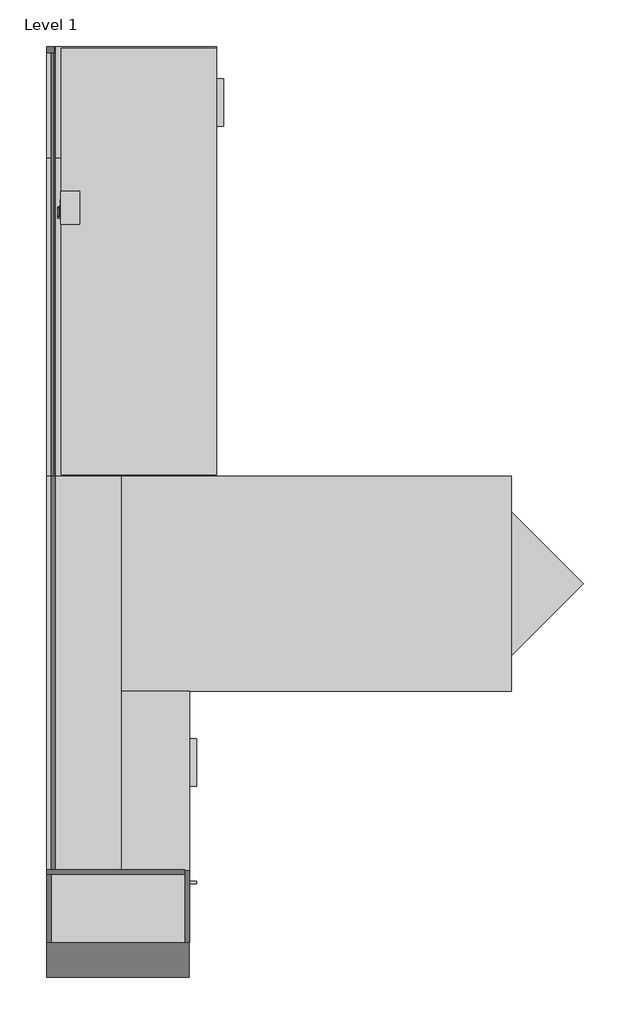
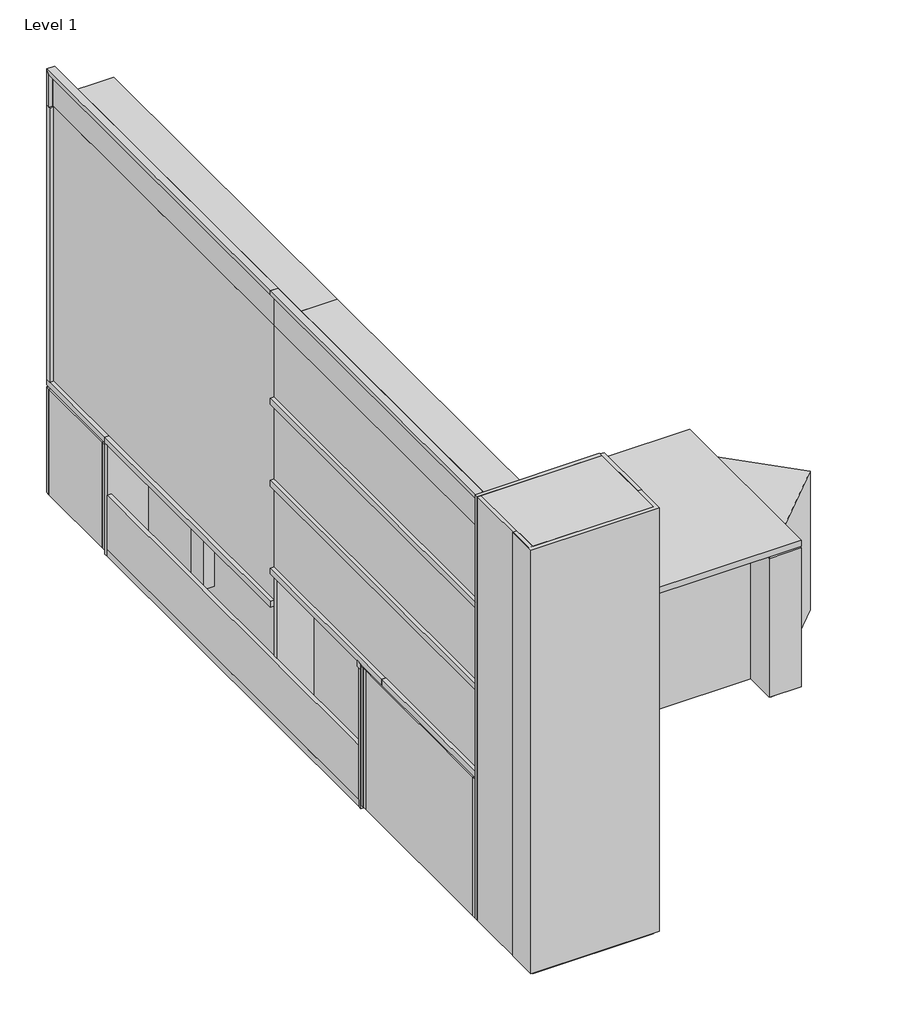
# One storey, incomplete: 15 proxies.
"""IFC4 building model written with IfcOpenShell, lengths in millimetres."""

from ifc_helpers import new_model, si_unit, origin, place, context, project, spatial, transform, mapped, element, save
from components import generic_models_4914e97a, generic_models_c733547e, generic_models_5ed4adca, generic_models_cfd542b2, generic_models_ab5d6a62, generic_models_b7273189, generic_models_309273ef, generic_models_ddd470e9, generic_models_91c993ae, generic_models_95cabb8a, generic_models_45839ae2, generic_models_23b81e3b, generic_models_f6abea88, generic_models_fad06939, generic_models_0a960df9

model = new_model("IFC4")

# Units and contexts
model_context = context("Model", 3, world=origin())
ifc_project = project(units=[si_unit("LENGTHUNIT", "METRE", prefix="MILLI")], contexts=[model_context])

# Site, building, storey
site = spatial("IfcSite", under=ifc_project)
building = spatial("IfcBuilding", under=site)
storey = spatial("IfcBuildingStorey", under=building, Name="Level 1", Elevation=0.0)

# Proxies
placement = place(None, origin())
generic_models_shape = generic_models_4914e97a(model_context)
element("IfcBuildingElementProxy", 1, Name="BASYS^OFFICE 7_WARDROBE-LEFT END", ObjectType="BASYS^OFFICE 7_WARDROBE-LEFT END", at=placement, inside=storey, context=model_context, shape_type="MappedRepresentation", body=[
    mapped(generic_models_shape, transform((0.0, -3962.4, -584.2), x_axis=(0.0, 1.0, 0.0), y_axis=(0.0, 0.0, 1.0), z_axis=(1.0, 0.0, 0.0))),
])
generic_models_2_shape = generic_models_c733547e(model_context)
element("IfcBuildingElementProxy", 2, Name="BASYS^OFFICE 7_LEGAL LAT-WORKSURFACE", ObjectType="BASYS^OFFICE 7_LEGAL LAT-WORKSURFACE", at=placement, inside=storey, context=model_context, shape_type="MappedRepresentation", body=[
    mapped(generic_models_2_shape, transform((609.6, -3505.2, 136.525), x_axis=(0.0, 1.0, 0.0), y_axis=(0.0, 0.0, 1.0), z_axis=(1.0, 0.0, 0.0))),
])
generic_models_3_shape = generic_models_5ed4adca(model_context)
element("IfcBuildingElementProxy", 3, Name="BASYS^OFFICE 7_36x78 DESK-PARTS SOLID", ObjectType="BASYS^OFFICE 7_36x78 DESK-PARTS SOLID", at=placement, inside=storey, context=model_context, shape_type="MappedRepresentation", body=[
    mapped(generic_models_3_shape, transform((0.0, -2743.2, 136.525), x_axis=(1.0, 0.0, 0.0), y_axis=(0.0, 0.0, 1.0), z_axis=(0.0, -1.0, 0.0))),
])
generic_models_4_shape = generic_models_cfd542b2(model_context)
element("IfcBuildingElementProxy", 4, Name="BASYS^OFFICE 7_24 DEEP PED_LEGAL BF PED", ObjectType="BASYS^OFFICE 7_24 DEEP PED_LEGAL BF PED", at=placement, inside=storey, context=model_context, shape_type="MappedRepresentation", body=[
    mapped(generic_models_4_shape, transform((419.1, -69.2307943, -231.6683988), x_axis=(0.0, 1.0, 0.0), y_axis=(0.0, 0.0, 1.0), z_axis=(1.0, 0.0, 0.0))),
])
generic_models_5_shape = generic_models_ab5d6a62(model_context)
element("IfcBuildingElementProxy", 5, Name="BASYS^OFFICE 7_WIRE WALL_PARTS SOLID", ObjectType="BASYS^OFFICE 7_WIRE WALL_PARTS SOLID", at=placement, inside=storey, context=model_context, shape_type="MappedRepresentation", body=[
    mapped(generic_models_5_shape, transform((215.9, -2571.75, -28.575), x_axis=(0.0, 1.0, 0.0), y_axis=(0.0, 0.0, 1.0), z_axis=(1.0, 0.0, 0.0))),
])
generic_models_6_shape = generic_models_b7273189(model_context)
element("IfcBuildingElementProxy", 6, Name="SS LIFT ANGLE_18_LT_OMT_LINAK (NEW)", ObjectType="SS LIFT ANGLE_18_LT_OMT_LINAK (NEW)", at=placement, inside=storey, context=model_context, shape_type="MappedRepresentation", body=[
    mapped(generic_models_6_shape, transform((103.1875, -1601.6, 136.525), x_axis=(1.0, 0.0, 0.0), y_axis=(0.0, 0.0, 1.0), z_axis=(0.0, -1.0, 0.0))),
])
generic_models_7_shape = generic_models_309273ef(model_context)
element("IfcBuildingElementProxy", 7, Name="CLAMP ON PWR WITH DATA", ObjectType="CLAMP ON PWR WITH DATA", at=placement, inside=storey, context=model_context, shape_type="MappedRepresentation", body=[
    mapped(generic_models_7_shape, transform((74.1354302, -790.194, 195.8594), x_axis=(0.0, 1.0, 0.0), y_axis=(0.0, 0.0, 1.0), z_axis=(1.0, 0.0, 0.0))),
])
generic_models_8_shape = generic_models_ddd470e9(model_context)
element("IfcBuildingElementProxy", 8, Name="SS LIFT ANGLE_18_RT_OMT_LINAK (NEW)", ObjectType="SS LIFT ANGLE_18_RT_OMT_LINAK (NEW)", at=placement, inside=storey, context=model_context, shape_type="MappedRepresentation", body=[
    mapped(generic_models_8_shape, transform((103.1875, -493.9, 136.525), x_axis=(1.0, 0.0, 0.0), y_axis=(0.0, 0.0, 1.0), z_axis=(0.0, -1.0, 0.0))),
])
generic_models_9_shape = generic_models_91c993ae(model_context)
element("IfcBuildingElementProxy", 9, Name="BASYS^OFFICE 7_WALL HUNG-LEFT UNIT", ObjectType="BASYS^OFFICE 7_WALL HUNG-LEFT UNIT", at=placement, inside=storey, context=model_context, shape_type="MappedRepresentation", body=[
    mapped(generic_models_9_shape, transform((19.05, -3505.2, 1368.425), x_axis=(0.0, 1.0, 0.0), y_axis=(0.0, 0.0, 1.0), z_axis=(1.0, 0.0, 0.0))),
])
generic_models_10_shape = generic_models_95cabb8a(model_context)
element("IfcBuildingElementProxy", 10, Name="BASYS^OFFICE 7_WALL HUNG-RIGHT UNIT", ObjectType="BASYS^OFFICE 7_WALL HUNG-RIGHT UNIT", at=placement, inside=storey, context=model_context, shape_type="MappedRepresentation", body=[
    mapped(generic_models_10_shape, transform((19.05, -1828.8, 1368.425), x_axis=(0.0, 1.0, 0.0), y_axis=(0.0, 0.0, 1.0), z_axis=(1.0, 0.0, 0.0))),
])
generic_models_11_shape = generic_models_45839ae2(model_context)
element("IfcBuildingElementProxy", 11, Name="BASYS^OFFICE 7_LEGAL BF-WORKSURFACE", ObjectType="BASYS^OFFICE 7_LEGAL BF-WORKSURFACE", at=placement, inside=storey, context=model_context, shape_type="MappedRepresentation", body=[
    mapped(generic_models_11_shape, transform((0.0, -476.25, -28.575), x_axis=(1.0, 0.0, 0.0), y_axis=(0.0, 0.0, 1.0), z_axis=(0.0, -1.0, 0.0))),
])
generic_models_12_shape = generic_models_23b81e3b(model_context)
element("IfcBuildingElementProxy", 12, Name="BASYS^OFFICE 7_WIRE WALL_TROUGH", ObjectType="BASYS^OFFICE 7_WIRE WALL_TROUGH", at=placement, inside=storey, context=model_context, shape_type="MappedRepresentation", body=[
    mapped(generic_models_12_shape, transform((100.08108, -1581.15, 71.50608), x_axis=(0.0, 1.0, 0.0), y_axis=(0.0, 0.0, 1.0), z_axis=(1.0, 0.0, 0.0))),
])
generic_models_13_shape = generic_models_f6abea88(model_context)
element("IfcBuildingElementProxy", 13, Name="BASYS^OFFICE 7_RETURN HAT-WORKSURFACE", ObjectType="BASYS^OFFICE 7_RETURN HAT-WORKSURFACE", at=placement, inside=storey, context=model_context, shape_type="MappedRepresentation", body=[
    mapped(generic_models_13_shape, transform((723.9, -1822.45, 136.525), x_axis=(0.0, 1.0, 0.0), y_axis=(0.0, 0.0, 1.0), z_axis=(1.0, 0.0, 0.0))),
])
generic_models_14_shape = generic_models_fad06939(model_context)
element("IfcBuildingElementProxy", 14, Name="BASYS^24 DEEP PED_LEGAL LAT-FF PED", ObjectType="BASYS^24 DEEP PED_LEGAL LAT-FF PED", at=placement, inside=storey, context=model_context, shape_type="MappedRepresentation", body=[
    mapped(generic_models_14_shape, transform((304.8, -3098.1807943, -231.6683988), x_axis=(0.0, 1.0, 0.0), y_axis=(0.0, 0.0, 1.0), z_axis=(1.0, 0.0, 0.0))),
])
generic_models_15_shape = generic_models_0a960df9(model_context)
element("IfcBuildingElementProxy", 15, Name="H-MP-TUBE1", ObjectType="H-MP-TUBE1", at=placement, inside=storey, context=model_context, shape_type="MappedRepresentation", body=[
    mapped(generic_models_15_shape, transform((107.95, -1073.15, -422.275), x_axis=(1.0, 0.0, 0.0), y_axis=(0.0, 0.0, 1.0), z_axis=(0.0, -1.0, 0.0))),
])

save(model, "model.ifc")
